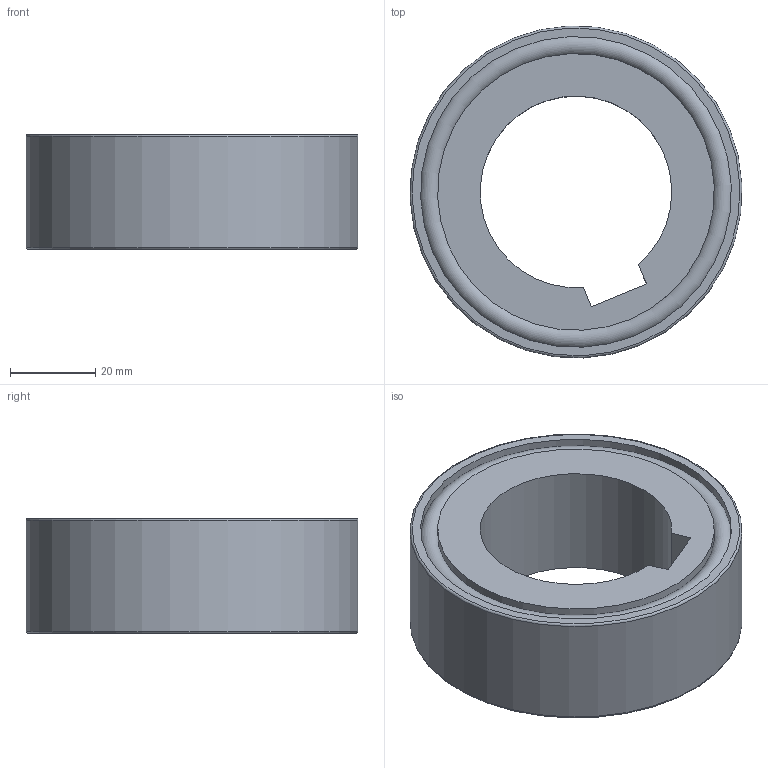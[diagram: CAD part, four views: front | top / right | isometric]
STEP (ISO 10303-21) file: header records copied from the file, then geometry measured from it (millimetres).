
FILE_DESCRIPTION(/* description */ (''),/* implementation_level */ '2;1');
FILE_NAME(/* name */ '306530 FN 473 M.stp',/* time_stamp */ '2016-11-24T16:26:29+01:00',/* author */ (''),/* organization */ (''),/* preprocessor_version */ 'ST-DEVELOPER v15',/* originating_system */ 'SIEMENS PLM Software NX 8.5',/* authorisation */ '');
FILE_SCHEMA (('CONFIG_CONTROL_DESIGN'));
Length unit declared in the file: millimetre
Products named in the file (3): ATE0000080_01; ATE0000131_01; ATE0000132_01
Assembly tree (2 placements, depth 2):
  ATE0000132_01
    ATE0000131_01
    ATE0000080_01
Bounding box: 77.92 x 77.92 x 27 mm (x, y, z)
Volume: 73350.7 mm3; surface area: 38916.1 mm2
Topology: 3 solids, 3 shells, 73 faces, 162 edges, 107 vertices
Faces by surface type: plane 47, cylinder 22, torus 4
Full cylindrical faces by diameter (mm): 65 x3, 69 x1, 70 x1, 71 x1, 72 x2, 73 x4, 78 x1
Entity records: 2192 total; most frequent: DIRECTION 350, CARTESIAN_POINT 312, ORIENTED_EDGE 272, AXIS2_PLACEMENT_3D 138, EDGE_CURVE 136, EDGE_LOOP 110, VERTEX_POINT 100, LINE 74
